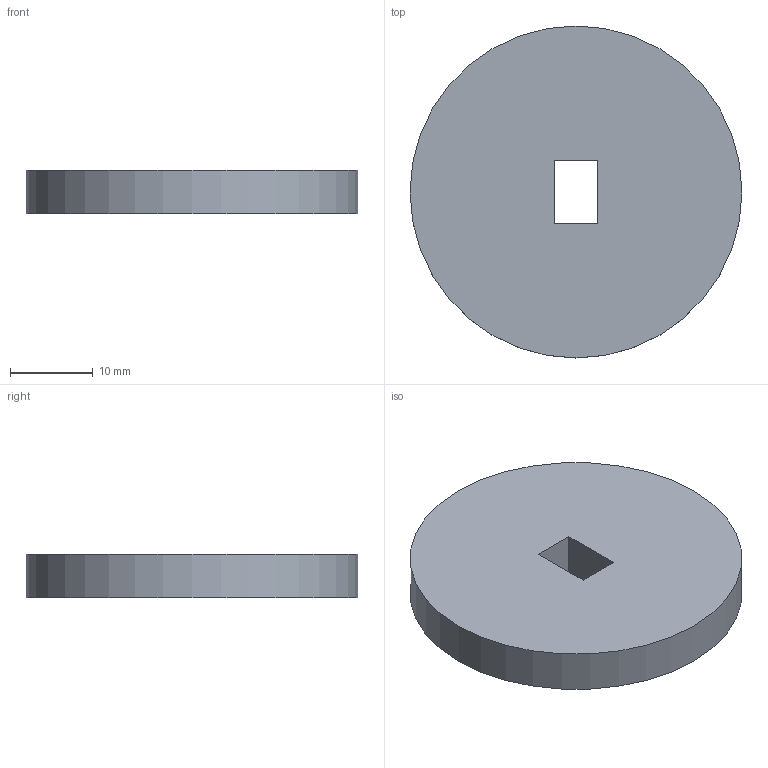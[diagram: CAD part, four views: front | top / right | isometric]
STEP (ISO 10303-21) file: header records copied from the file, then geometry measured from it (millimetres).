
FILE_DESCRIPTION(('Open CASCADE Model'),'2;1');
FILE_NAME('Open CASCADE Shape Model','2026-10-26T07:39:10',('Author'),( 'Open CASCADE'),'Open CASCADE STEP processor 7.9','Open CASCADE 7.9' ,'Unknown');
FILE_SCHEMA(('AUTOMOTIVE_DESIGN { 1 0 10303 214 1 1 1 1 }'));
Length unit declared in the file: millimetre
Products named in the file (1): Open CASCADE STEP translator 7.9 1
Bounding box: 40 x 40 x 5.2 mm (x, y, z)
Volume: 6329 mm3; surface area: 3220.8 mm2
Topology: 1 solids, 1 shells, 7 faces, 15 edges, 10 vertices
Faces by surface type: plane 6, cylinder 1
Full cylindrical faces by diameter (mm): 40 x1
Entity records: 400 total; most frequent: CARTESIAN_POINT 63, DIRECTION 63, LINE 41, VECTOR 41, ORIENTED_EDGE 30, PCURVE 30, DEFINITIONAL_REPRESENTATION 30, EDGE_CURVE 15
